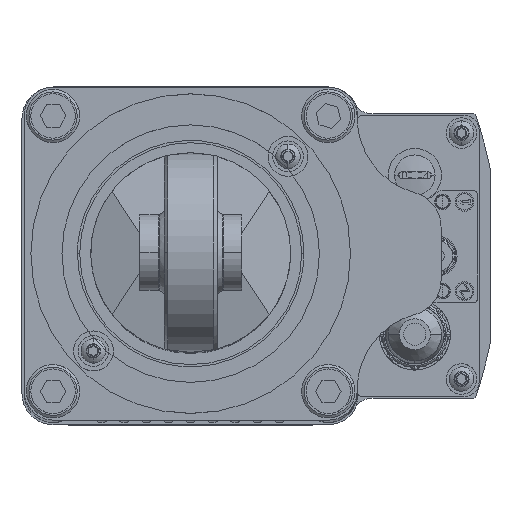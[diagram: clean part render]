
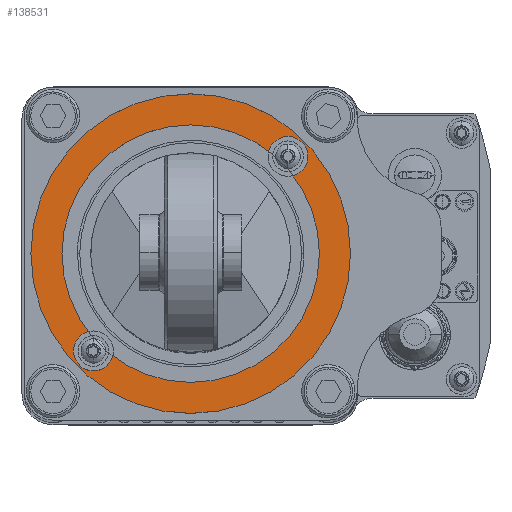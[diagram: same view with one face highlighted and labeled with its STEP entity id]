
A CAD part, top view. The second image highlights one B-rep face of the part: STEP entity #138531.
In plain terms, the highlighted planar face has unit normal (0, 0, 1).
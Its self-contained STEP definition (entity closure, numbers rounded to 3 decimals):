
#1620 = CIRCLE ( 'NONE', #7409, 36. ) ;
#4674 = CARTESIAN_POINT ( 'NONE',  ( -23.17, -21.92, 307.9 ) ) ;
#5316 = CARTESIAN_POINT ( 'NONE',  ( 0., 0., 307.9 ) ) ;
#7208 = CIRCLE ( 'NONE', #115276, 1.25 ) ;
#7409 = AXIS2_PLACEMENT_3D ( 'NONE', #79284, #64227, #49208 ) ;
#8008 = AXIS2_PLACEMENT_3D ( 'NONE', #171658, #158266, #90677 ) ;
#8405 = CARTESIAN_POINT ( 'NONE',  ( -20.67, -21.92, 307.9 ) ) ;
#11131 = DIRECTION ( 'NONE',  ( 0., 0., 1. ) ) ;
#12038 = DIRECTION ( 'NONE',  ( 1., 0., 0. ) ) ;
#14959 = CARTESIAN_POINT ( 'NONE',  ( 21.92, 21.92, 307.9 ) ) ;
#15658 = CARTESIAN_POINT ( 'NONE',  ( 0., 0., 307.9 ) ) ;
#20942 = AXIS2_PLACEMENT_3D ( 'NONE', #51620, #105898, #176053 ) ;
#21050 = CARTESIAN_POINT ( 'NONE',  ( 21.92, 21.92, 307.9 ) ) ;
#22328 = EDGE_LOOP ( 'NONE', ( #110340, #60378 ) ) ;
#24240 = VERTEX_POINT ( 'NONE', #151798 ) ;
#25970 = CIRCLE ( 'NONE', #51675, 36. ) ;
#40482 = CARTESIAN_POINT ( 'NONE',  ( -21.92, -21.92, 307.9 ) ) ;
#43673 = CARTESIAN_POINT ( 'NONE',  ( -36., 0., 307.9 ) ) ;
#47203 = CIRCLE ( 'NONE', #169285, 1.25 ) ;
#49022 = EDGE_CURVE ( 'NONE', #120644, #51525, #166564, .T. ) ;
#49208 = DIRECTION ( 'NONE',  ( 1., 0., 0. ) ) ;
#49622 = EDGE_CURVE ( 'NONE', #102408, #154517, #1620, .T. ) ;
#51525 = VERTEX_POINT ( 'NONE', #68199 ) ;
#51620 = CARTESIAN_POINT ( 'NONE',  ( 0., 0., 307.9 ) ) ;
#51675 = AXIS2_PLACEMENT_3D ( 'NONE', #5316, #59682, #85473 ) ;
#51912 = ORIENTED_EDGE ( 'NONE', *, *, #54951, .T. ) ;
#53911 = FACE_BOUND ( 'NONE', #22328, .T. ) ;
#54951 = EDGE_CURVE ( 'NONE', #154517, #102408, #25970, .T. ) ;
#55839 = EDGE_CURVE ( 'NONE', #78510, #24240, #174332, .T. ) ;
#57286 = ORIENTED_EDGE ( 'NONE', *, *, #55839, .F. ) ;
#59682 = DIRECTION ( 'NONE',  ( 0., 0., 1. ) ) ;
#59795 = ORIENTED_EDGE ( 'NONE', *, *, #63530, .F. ) ;
#60311 = EDGE_CURVE ( 'NONE', #51525, #120644, #7208, .T. ) ;
#60378 = ORIENTED_EDGE ( 'NONE', *, *, #75140, .F. ) ;
#63530 = EDGE_CURVE ( 'NONE', #24240, #78510, #143871, .T. ) ;
#64227 = DIRECTION ( 'NONE',  ( 0., 0., 1. ) ) ;
#68199 = CARTESIAN_POINT ( 'NONE',  ( 20.67, 21.92, 307.9 ) ) ;
#72648 = AXIS2_PLACEMENT_3D ( 'NONE', #15658, #124353, #135926 ) ;
#72706 = DIRECTION ( 'NONE',  ( 0., 0., 1. ) ) ;
#75140 = EDGE_CURVE ( 'NONE', #103422, #164546, #136022, .T. ) ;
#78510 = VERTEX_POINT ( 'NONE', #90340 ) ;
#79284 = CARTESIAN_POINT ( 'NONE',  ( 0., 0., 307.9 ) ) ;
#81683 = DIRECTION ( 'NONE',  ( 0., 0., 1. ) ) ;
#85178 = DIRECTION ( 'NONE',  ( 1., 0., 0. ) ) ;
#85473 = DIRECTION ( 'NONE',  ( 1., 0., 0. ) ) ;
#90340 = CARTESIAN_POINT ( 'NONE',  ( -29., 0., 307.9 ) ) ;
#90677 = DIRECTION ( 'NONE',  ( 1., 0., 0. ) ) ;
#91717 = AXIS2_PLACEMENT_3D ( 'NONE', #162382, #132355, #12038 ) ;
#92163 = FACE_OUTER_BOUND ( 'NONE', #124808, .T. ) ;
#93334 = CARTESIAN_POINT ( 'NONE',  ( 23.17, 21.92, 307.9 ) ) ;
#98260 = ORIENTED_EDGE ( 'NONE', *, *, #49022, .F. ) ;
#102408 = VERTEX_POINT ( 'NONE', #115273 ) ;
#103422 = VERTEX_POINT ( 'NONE', #4674 ) ;
#105898 = DIRECTION ( 'NONE',  ( 0., 0., 1. ) ) ;
#108193 = FACE_BOUND ( 'NONE', #133545, .T. ) ;
#109435 = EDGE_LOOP ( 'NONE', ( #57286, #59795 ) ) ;
#110340 = ORIENTED_EDGE ( 'NONE', *, *, #169802, .F. ) ;
#115273 = CARTESIAN_POINT ( 'NONE',  ( 36., 0., 307.9 ) ) ;
#115276 = AXIS2_PLACEMENT_3D ( 'NONE', #21050, #72706, #85178 ) ;
#115474 = AXIS2_PLACEMENT_3D ( 'NONE', #14959, #81683, #174238 ) ;
#120644 = VERTEX_POINT ( 'NONE', #93334 ) ;
#124353 = DIRECTION ( 'NONE',  ( 0., 0., 1. ) ) ;
#124808 = EDGE_LOOP ( 'NONE', ( #51912, #147996 ) ) ;
#129668 = ORIENTED_EDGE ( 'NONE', *, *, #60311, .F. ) ;
#132355 = DIRECTION ( 'NONE',  ( 0., 0., 1. ) ) ;
#133545 = EDGE_LOOP ( 'NONE', ( #98260, #129668 ) ) ;
#135850 = FACE_BOUND ( 'NONE', #109435, .T. ) ;
#135926 = DIRECTION ( 'NONE',  ( 1., 0., 0. ) ) ;
#136022 = CIRCLE ( 'NONE', #8008, 1.25 ) ;
#138531 = ADVANCED_FACE ( 'NONE', ( #108193, #53911, #92163, #135850 ), #149088, .T. ) ;
#143871 = CIRCLE ( 'NONE', #72648, 29. ) ;
#147996 = ORIENTED_EDGE ( 'NONE', *, *, #49622, .T. ) ;
#148177 = DIRECTION ( 'NONE',  ( 1., 0., 0. ) ) ;
#149088 = PLANE ( 'NONE',  #91717 ) ;
#151798 = CARTESIAN_POINT ( 'NONE',  ( 29., 0., 307.9 ) ) ;
#154517 = VERTEX_POINT ( 'NONE', #43673 ) ;
#158266 = DIRECTION ( 'NONE',  ( 0., 0., 1. ) ) ;
#162382 = CARTESIAN_POINT ( 'NONE',  ( 0., 0., 307.9 ) ) ;
#164546 = VERTEX_POINT ( 'NONE', #8405 ) ;
#166564 = CIRCLE ( 'NONE', #115474, 1.25 ) ;
#169285 = AXIS2_PLACEMENT_3D ( 'NONE', #40482, #11131, #148177 ) ;
#169802 = EDGE_CURVE ( 'NONE', #164546, #103422, #47203, .T. ) ;
#171658 = CARTESIAN_POINT ( 'NONE',  ( -21.92, -21.92, 307.9 ) ) ;
#174238 = DIRECTION ( 'NONE',  ( 1., 0., 0. ) ) ;
#174332 = CIRCLE ( 'NONE', #20942, 29. ) ;
#176053 = DIRECTION ( 'NONE',  ( 1., 0., 0. ) ) ;
